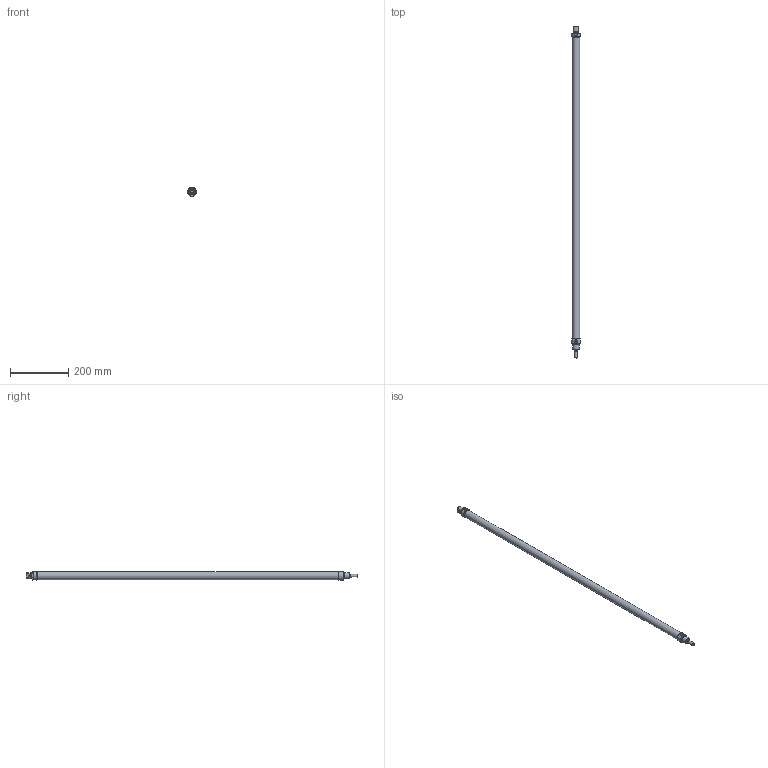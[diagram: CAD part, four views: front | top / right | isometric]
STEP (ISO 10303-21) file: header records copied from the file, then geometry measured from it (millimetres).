
FILE_DESCRIPTION((''),'2;1');
FILE_NAME('T:\Archivio Inventor\- 00 NUOVI STP PER SITO CON STELO CHE SI MUOVE\SERIE O\ODM\ODM025.---.GS.M\ODM025.1000.GS.M.stp','2017-06-12T16:04:40',('carlo.corazza'),(''),'Autodesk Inventor 2013','Autodesk Inventor 2013','');
FILE_SCHEMA(('AUTOMOTIVE_DESIGN { 1 0 10303 214 1 1 1 1 }'));
Length unit declared in the file: millimetre
Products named in the file (5): ODM025..GS.M; CORPO-1000; STELO-1000; TA; TP
Assembly tree (4 placements, depth 2):
  ODM025..GS.M
    CORPO-1000
    STELO-1000
    TA
    TP
Bounding box: 30 x 1140 x 28.45 mm (x, y, z)
Volume: 182320.6 mm3; surface area: 212369.7 mm2
Topology: 4 solids, 4 shells, 98 faces, 202 edges, 127 vertices
Faces by surface type: plane 38, cylinder 28, cone 24, torus 8
Full cylindrical faces by diameter (mm): 8 x2, 8.566 x2, 9.9 x1, 10 x1, 10.5 x1, 11.1 x1, 14 x1, 14.1 x1, 16.1 x1, 16.2 x1, 19.7 x1, 22 x2, 25 x1, 26.5 x1, 27 x2
Entity records: 2537 total; most frequent: DIRECTION 442, CARTESIAN_POINT 420, ORIENTED_EDGE 292, AXIS2_PLACEMENT_3D 198, EDGE_LOOP 164, EDGE_CURVE 146, VERTEX_POINT 118, FACE_OUTER_BOUND 98
